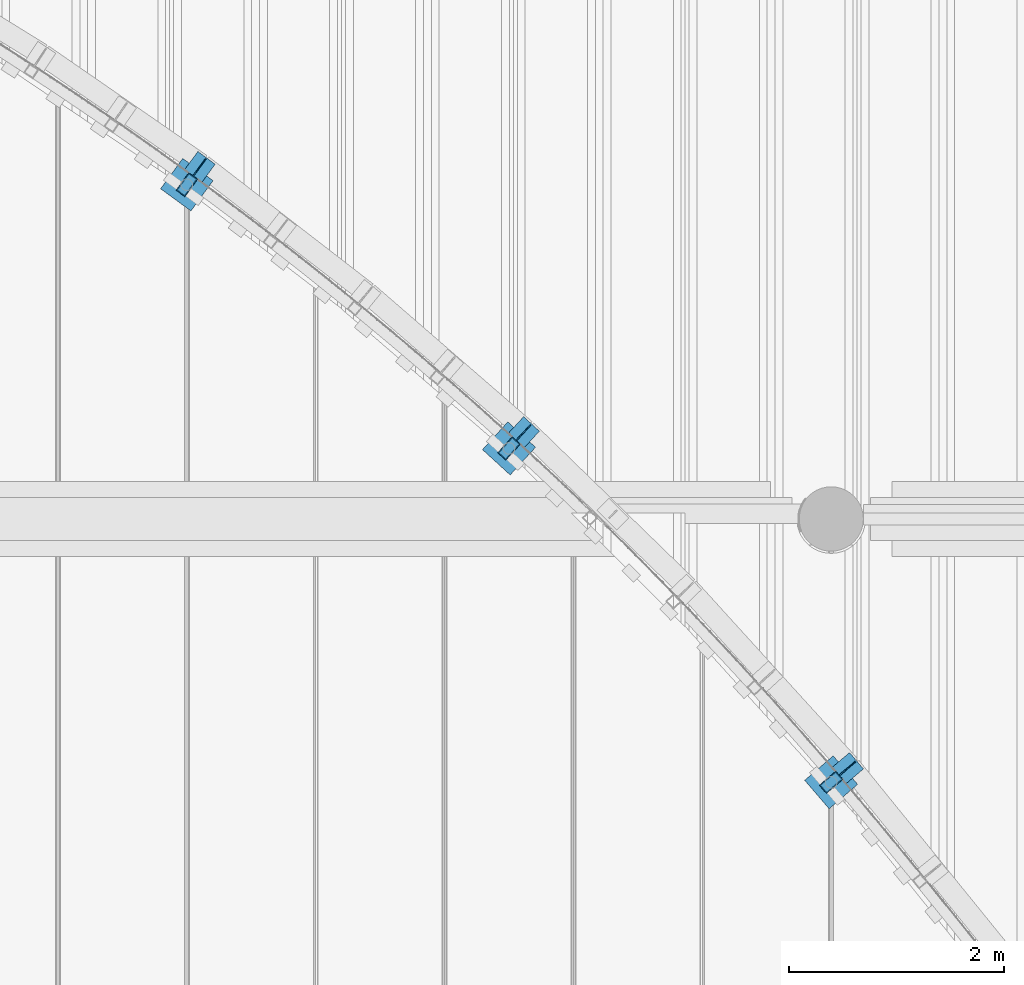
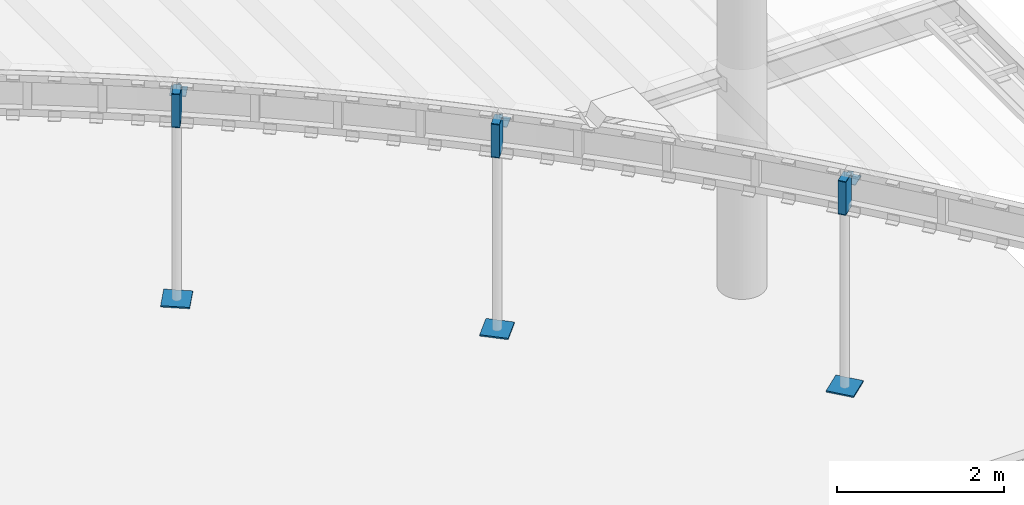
# One storey, part 6 of 98: 18 columns.
"""IFC2X3 building model written with IfcOpenShell, lengths in millimetres."""

from ifc_helpers import new_model, entity, si_unit, converted_unit, derived_unit, direction, frame, origin_with_axes, place, context, subcontext, project, spatial, faceted_brep, material, type_object, element, save


model = new_model("IFC2X3")

# Units and contexts
model_context = context("Model", 3, precision=0.01, world=frame((0.0, 4.29681676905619e-09, 0.0)), true_north=direction((4.01073788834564e-13, 1.0)))
plan_context = context("Plan", 3, precision=0.01, world=frame((0.0, 4.29681676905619e-09, 0.0)), true_north=direction((4.01073788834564e-13, 1.0)))
body_context = subcontext(model_context, "Body", "Model", "MODEL_VIEW")
ifc_project = project(units=[converted_unit("PLANEANGLEUNIT", "DEGREE", entity("IfcPositiveLengthMeasure", 0.0174532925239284), si_unit("PLANEANGLEUNIT", "RADIAN"), dimensions=[0, 0, 0, 0, 0, 0, 0]), si_unit("AREAUNIT", "SQUARE_METRE"), si_unit("LENGTHUNIT", "METRE", prefix="MILLI"), si_unit("MASSUNIT", "GRAM", prefix="KILO"), si_unit("POWERUNIT", "WATT"), si_unit("PRESSUREUNIT", "PASCAL"), si_unit("FORCEUNIT", "NEWTON", prefix="KILO"), si_unit("ELECTRICCURRENTUNIT", "AMPERE"), si_unit("THERMODYNAMICTEMPERATUREUNIT", "DEGREE_CELSIUS"), si_unit("TIMEUNIT", "SECOND"), si_unit("VOLUMEUNIT", "CUBIC_METRE"), derived_unit("LINEARVELOCITYUNIT", [(si_unit("LENGTHUNIT", "METRE"), 1), (si_unit("TIMEUNIT", "SECOND"), -1)]), derived_unit("VOLUMETRICFLOWRATEUNIT", [(si_unit("VOLUMEUNIT", "CUBIC_METRE"), 1), (si_unit("TIMEUNIT", "SECOND"), -1)]), derived_unit("THERMALTRANSMITTANCEUNIT", [(si_unit("POWERUNIT", "WATT"), 1), (si_unit("THERMODYNAMICTEMPERATUREUNIT", "KELVIN"), -1), (si_unit("AREAUNIT", "SQUARE_METRE"), -1)])], contexts=[model_context, plan_context])

# Site, building, storey
site_placement = place(None, frame((0.0, -4.29681676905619e-09, 0.0), z_axis=(0.0, 0.0, 1.0), x_axis=(1.0, 0.0, 0.0)))
site = spatial("IfcSite", under=ifc_project, at=site_placement, Name="Gardermoen", CompositionType="ELEMENT")
building_placement = place(site_placement, frame((0.0, 4.29681676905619e-09, 0.0), z_axis=(0.0, 0.0, 1.0), x_axis=(1.0, 0.0, 0.0)))
building = spatial("IfcBuilding", under=site, at=building_placement, Name="TS", CompositionType="ELEMENT")
storey_placement = place(building_placement, origin_with_axes())
storey = spatial("IfcBuildingStorey", under=building, at=storey_placement, Name="D", CompositionType="ELEMENT", Elevation=0.0)

# Columns
ifc_material = material(Name="STEEL/S355")
column_type_1 = type_object("IfcColumnType", Name="RHS200*100*6.3", PredefinedType="NOTDEFINED")
for number, where, z_axis, x_axis in (
    (1, (529000.0, 403047.744245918, 206515.0), (-0.759100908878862, -0.650972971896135, 0.0), (0.0, 0.0, 1.0)),
    (2, (525999.998435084, 406157.084929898, 206515.0), (-0.674972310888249, -0.737843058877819, 0.0), (0.0, 0.0, 1.0)),
    (3, (522999.971294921, 408613.091807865, 206515.0), (-0.590323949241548, -0.807166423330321, 0.0), (0.0, 0.0, 1.0)),
):
    element("IfcColumn", number, at=place(storey_placement, frame(where, z_axis=z_axis, x_axis=x_axis)), inside=storey, type_object=column_type_1, material=ifc_material, Name="STÅLSØYLE", ObjectType="RHS200*100*6.3", context=body_context, shape_type="Brep", body=[
        faceted_brep([(0.0, 43.6999998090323, -93.6999998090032), (0.0, -43.6999998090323, -93.6999998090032), (475.0, -43.69999981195, -93.6999998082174), (475.0, 43.6999998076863, -93.6999998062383), (0.0, -43.6999998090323, 93.6999998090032), (475.0, -43.6999998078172, 93.6999998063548), (0.0, 43.6999998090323, 93.6999998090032), (475.0, 43.6999998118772, 93.6999998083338), (0.0, 50.0, -100.0), (0.0, 50.0, 100.0), (475.0, 50.0000000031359, 99.9999999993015), (475.0, 49.9999999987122, -99.9999999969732), (0.0, -50.0, 100.0), (475.0, -49.9999999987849, 99.9999999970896), (0.0, -50.0, -100.0), (475.0, -50.0000000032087, -99.9999999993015)], [[[0, 1, 2, 3]], [[1, 4, 5, 2]], [[4, 6, 7, 5]], [[6, 0, 3, 7]], [[8, 9, 10, 11]], [[9, 12, 13, 10]], [[12, 14, 15, 13]], [[14, 8, 11, 15]], [[13, 15, 11, 10], [5, 7, 3, 2]], [[14, 12, 9, 8], [6, 4, 1, 0]]]),
    ])
column_type_2 = type_object("IfcColumnType", Name="PL20*350", PredefinedType="NOTDEFINED")
for number, where, z_axis, x_axis in (
    (4, (523141.225419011, 408509.785116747, 203940.0), (-0.590323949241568, -0.807166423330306, 0.0), (-0.807166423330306, 0.590323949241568, 0.0)),
    (5, (529132.842659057, 403161.664516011, 203940.0), (0.650972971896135, -0.759100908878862, 0.0), (-0.759100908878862, -0.650972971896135, 0.0)),
    (6, (526129.120970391, 406038.96477549, 203940.0), (-0.674972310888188, -0.737843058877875, 0.0), (-0.737843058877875, 0.674972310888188, 0.0)),
):
    element("IfcColumn", number, at=place(storey_placement, frame(where, z_axis=z_axis, x_axis=x_axis)), inside=storey, type_object=column_type_2, material=ifc_material, Name="STÅLSØYLE", ObjectType="PL20*350", context=body_context, shape_type="Brep", body=[
        faceted_brep([(8.0326572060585e-09, 10.0, -175.000000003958), (-8.14907252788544e-09, 10.0, 175.0000000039), (349.99999996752, 10.0, 175.000000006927), (349.999999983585, 10.0, -175.000000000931), (-8.14907252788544e-09, -10.0, 175.0000000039), (349.99999996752, -10.0, 175.000000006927), (8.0326572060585e-09, -10.0, -175.000000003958), (349.999999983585, -10.0, -175.000000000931)], [[[0, 1, 2, 3]], [[1, 4, 5, 2]], [[4, 6, 7, 5]], [[6, 0, 3, 7]], [[5, 7, 3, 2]], [[6, 4, 1, 0]]]),
    ])
column_type_3 = type_object("IfcColumnType", Name="PL10*200", PredefinedType="NOTDEFINED")
for number, where, z_axis, x_axis in (
    (7, (529300.429742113, 403172.833012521, 206828.0), (-0.762411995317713, -0.647091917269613, 0.0), (-0.647091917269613, 0.762411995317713, 0.0)),
    (8, (526283.217427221, 406317.480560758, 206828.0), (-0.679150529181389, -0.733999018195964, 0.0), (-0.733999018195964, 0.679150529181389, 0.0)),
    (9, (523263.940960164, 408803.557539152, 206828.0), (-0.594504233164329, -0.804092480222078, 0.0), (-0.804092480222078, 0.594504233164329, 0.0)),
):
    element("IfcColumn", number, at=place(storey_placement, frame(where, z_axis=z_axis, x_axis=x_axis)), inside=storey, type_object=column_type_3, material=ifc_material, Name="STÅLSØYLE", ObjectType="PL10*200", context=body_context, shape_type="Brep", body=[
        faceted_brep([(0.0, -5.0, 0.0), (-0.454028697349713, -5.0, 209.566192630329), (-0.454028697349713, 5.0, 209.566192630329), (0.0, 5.0, 0.0), (199.544097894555, -5.0, 210.432800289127), (199.544097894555, 5.0, 210.432800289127), (200.0, -5.0, 0.0), (200.0, 5.0, -5.82076609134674e-11)], [[[0, 1, 2, 3]], [[1, 4, 5, 2]], [[4, 6, 7, 5]], [[6, 0, 3, 7]], [[5, 7, 3, 2]], [[6, 4, 1, 0]]]),
    ])
column_type_4 = type_object("IfcColumnType", Name="PL10*150", PredefinedType="NOTDEFINED")
for number, where, z_axis, x_axis in (
    (10, (529225.024923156, 403239.963145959, 206983.0), (-0.760994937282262, -0.648757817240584, 0.0), (0.0, 0.0, -1.0)),
    (11, (526200.293937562, 406375.065597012, 206983.0), (-0.677543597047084, -0.735482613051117, 0.0), (0.0, 0.0, -1.0)),
    (12, (523175.199194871, 408851.695264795, 206983.0), (-0.592744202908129, -0.805390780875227, 0.0), (0.0, 0.0, -1.0)),
):
    element("IfcColumn", number, at=place(storey_placement, frame(where, z_axis=z_axis, x_axis=x_axis)), inside=storey, type_object=column_type_4, material=ifc_material, Name="STÅLSØYLE", ObjectType="PL10*150", context=body_context, shape_type="Brep", body=[
        faceted_brep([(0.0, -5.0, 150.0), (2.91038304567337e-11, -5.0000000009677, 195.946411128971), (2.91038304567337e-11, 4.99999999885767, 195.946411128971), (0.0, 5.0, 150.0), (150.0, -5.0000000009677, 195.946411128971), (150.0, 4.99999999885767, 195.946411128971), (150.0, -4.99999999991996, 0.0), (150.0, 4.99999999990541, 1.16415321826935e-10), (99.9999999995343, -4.99999999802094, 7.21774995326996e-09), (99.9999999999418, 5.00000000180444, 6.81029632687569e-09)], [[[0, 1, 2, 3]], [[1, 4, 5, 2]], [[4, 6, 7, 5]], [[6, 8, 9, 7]], [[8, 0, 3, 9]], [[5, 7, 9, 3, 2]], [[8, 6, 4, 1, 0]]]),
    ])
column_type_5 = type_object("IfcColumnType", Name="100*10", PredefinedType="NOTDEFINED")
for number, where, z_axis, x_axis in (
    (13, (528924.089909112, 402982.646948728, 206510.0), (0.650972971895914, -0.759100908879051, 0.0), (0.759100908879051, 0.650972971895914, 0.0)),
    (14, (528924.089909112, 402982.646948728, 206995.0), (0.650972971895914, -0.759100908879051, 0.0), (0.759100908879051, 0.650972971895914, 0.0)),
    (15, (525932.501203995, 406083.300624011, 206510.0), (0.737843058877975, -0.674972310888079, 0.0), (0.674972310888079, 0.737843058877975, 0.0)),
    (16, (525932.501203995, 406083.300624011, 206995.0), (0.737843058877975, -0.674972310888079, 0.0), (0.674972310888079, 0.737843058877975, 0.0)),
    (17, (522940.938899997, 408532.375165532, 206510.0), (0.807166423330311, -0.590323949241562, 0.0), (0.590323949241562, 0.807166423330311, 0.0)),
    (18, (522940.938899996, 408532.375165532, 206995.0), (0.807166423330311, -0.590323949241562, 0.0), (0.590323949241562, 0.807166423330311, 0.0)),
):
    element("IfcColumn", number, at=place(storey_placement, frame(where, z_axis=z_axis, x_axis=x_axis)), inside=storey, type_object=column_type_5, material=ifc_material, Name="STÅLSØYLE", ObjectType="100*10", context=body_context, shape_type="Brep", body=[
        faceted_brep([(6.40284270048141e-10, 5.0, -50.0), (-5.82076609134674e-10, 5.00000000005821, 50.0), (199.999999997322, 5.0, 50.0000000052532), (199.999999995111, 5.0, -49.9999999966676), (-6.98491930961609e-10, -5.0, 50.0), (199.999999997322, -5.0, 50.0000000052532), (5.23868948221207e-10, -5.0, -50.0), (199.999999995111, -5.0, -49.9999999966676)], [[[0, 1, 2, 3]], [[1, 4, 5, 2]], [[4, 6, 7, 5]], [[6, 0, 3, 7]], [[5, 7, 3, 2]], [[6, 4, 1, 0]]]),
    ])

save(model, "model.ifc")
